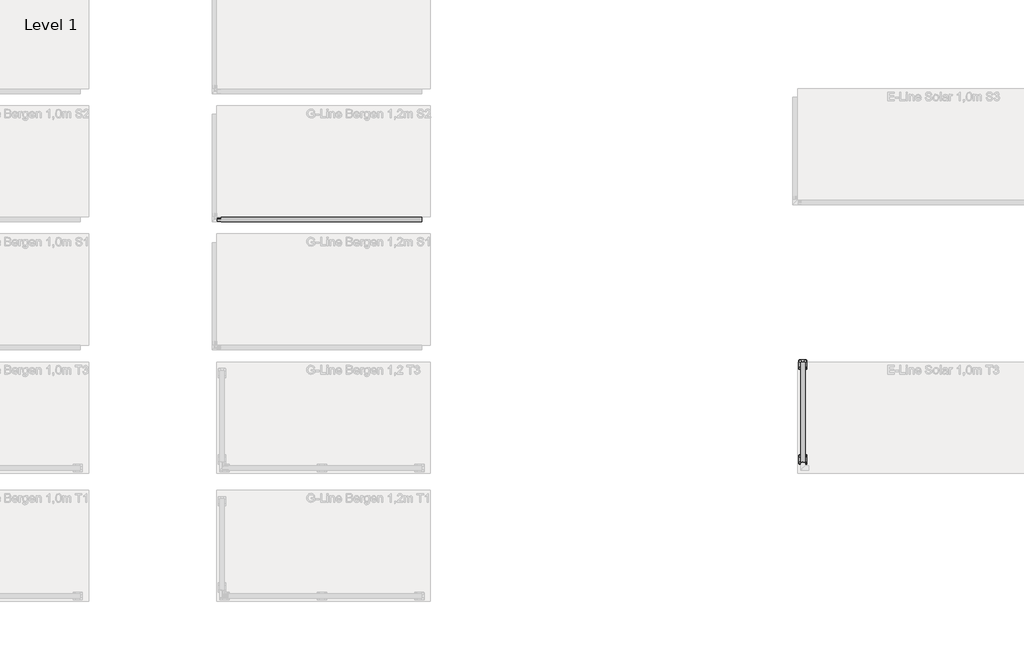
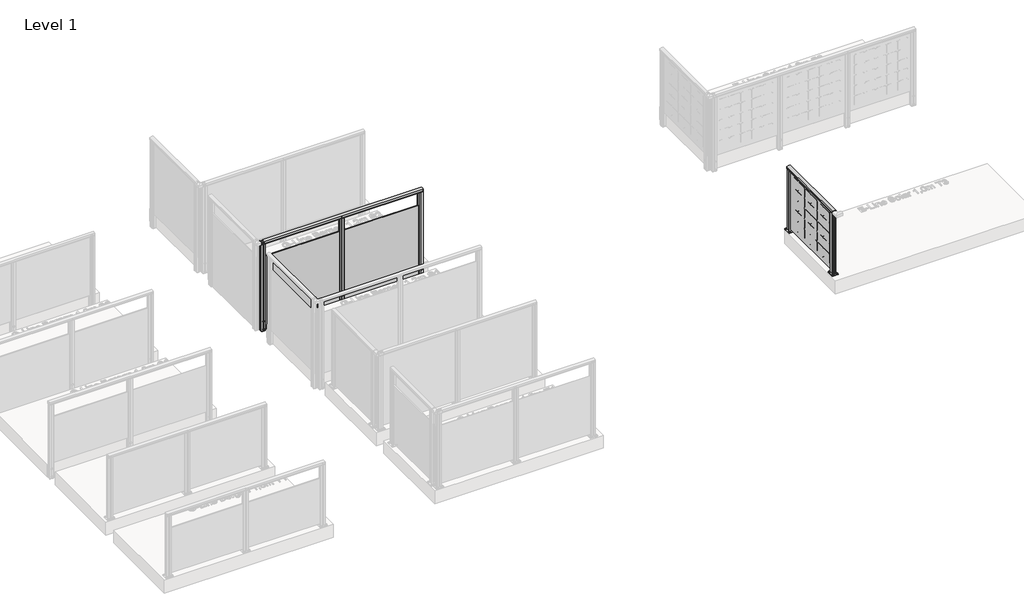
# One storey, part 22 of 66: 2 railings.
"""IFC4 building model written with IfcOpenShell, lengths in millimetres."""

from ifc_helpers import new_model, si_unit, point, frame, frame_2d, origin, origin_with_axes, place, context, project, spatial, polyline, circle_curve, trimmed, segment, composite_curve, outline, extrude, element, save

model = new_model("IFC4")

# Units and contexts
model_context = context("Model", 3, world=origin())
ifc_project = project(units=[si_unit("LENGTHUNIT", "METRE", prefix="MILLI")], contexts=[model_context])

# Site, building, storey
site = spatial("IfcSite", under=ifc_project)
building = spatial("IfcBuilding", under=site)
storey = spatial("IfcBuildingStorey", under=building, Name="Level 1", Elevation=0.0)

# Railings
placement = place(None, origin())
element("IfcRailing", 1, ObjectType="G-Line Bergen 1,2m S2", at=placement, inside=storey, context=model_context, shape_type="SweptSolid", body=[
    extrude(outline(composite_curve([segment(polyline([(13.4211819, 1194.1390059), (13.4211819, 1167.1990555), (12.8063989, 1166.5842725), (13.4211819, 1165.9694895), (13.4211819, 1157.2498847), (11.6613734, 1157.2498847), (11.6613734, 1180.4998829), (-35.3336728, 1180.4998829), (-35.3336728, 1157.2498847), (-37.1386257, 1157.2498847), (-37.1386257, 1165.8194895), (-36.5165446, 1166.4415706), (-37.0984763, 1167.0235023), (-37.0984763, 1194.1342258)]), True, "CONTINUOUS"), segment(trimmed(circle_curve(frame_2d((-11.8337784, 1142.6785502)), 57.3235687), [point((-37.0984763, 1194.1342258))], [point((13.4211819, 1194.1390059))], False, "CARTESIAN"), True, "CONTINUOUS")], self_intersect=False)), frame((8501.5263105, 0.0, 0.0), z_axis=(1.0, 0.0, 0.0), x_axis=(0.0, 1.0, 0.0)), (0.0, 0.0, 1.0), 2395.0),
    extrude(outline(polyline([(8501.5263105, -12.0140192), (8501.5263105, -10.1503363), (10896.5263105, -10.1503363), (10896.5263105, -12.0140192), (8501.5263105, -12.0140192)])), frame((0.0, 0.0, -200.0), z_axis=(0.0, 0.0, 1.0), x_axis=(1.0, 0.0, 0.0)), (0.0, 0.0, 1.0), 1.1703418),
    extrude(outline(polyline([(8501.5263105, -15.4984021), (8501.5263105, -6.7384021), (10896.5263105, -6.7384021), (10896.5263105, -15.4984021), (8501.5263105, -15.4984021)])), frame((0.0, 0.0, -200.0), z_axis=(0.0, 0.0, 1.0), x_axis=(1.0, 0.0, 0.0)), (0.0, 0.0, 1.0), 1150.0),
    extrude(outline(polyline([(9729.0247174, -6.7725401), (9711.5247176, -6.7699629), (9711.5234275, -15.5299628), (9729.0234273, -15.53254), (9729.0207684, -33.5873474), (9699.9037815, -33.5830594), (9699.025618, -32.7046373), (9697.9877501, -33.6229696), (9669.0207632, -33.6187037), (9669.023428, -15.5237039), (9686.5234278, -15.5262811), (9686.5247179, -6.7662812), (9669.0247181, -6.763704), (9669.0273844, 11.3412471), (9698.0438599, 11.3369739), (9699.0319584, 10.3485843), (9700.0604026, 11.3767256), (9729.0273896, 11.3724597), (9729.0247174, -6.7725401)]), holes=[polyline([(9690.2270955, -31.6244177), (9707.8210573, -31.6244177), (9707.8210573, 9.3781738), (9690.2270955, 9.3781738), (9690.2270955, -31.6244177)]), polyline([(9671.0270957, -4.7665316), (9688.2250124, -4.7665316), (9688.2250124, 9.3810013), (9671.0270957, 9.3810013), (9671.0270957, -4.7665316)]), polyline([(9671.0231335, -31.6244177), (9688.2210571, -31.6244177), (9688.2210571, -17.5239984), (9671.0231335, -17.5239984), (9671.0231335, -31.6244177)]), polyline([(9709.8270953, -4.7722456), (9727.025012, -4.7722456), (9727.025012, 9.3752873), (9709.8270953, 9.3752873), (9709.8270953, -4.7722456)]), polyline([(9709.823133, -31.6772453), (9727.0210497, -31.6772453), (9727.0210497, -17.5297124), (9709.823133, -17.5297124), (9709.823133, -31.6772453)])]), frame((0.0, 0.0, -200.0), z_axis=(0.0, 0.0, 1.0), x_axis=(1.0, 0.0, 0.0)), (0.0, 0.0, 1.0), 1381.0),
    extrude(outline(polyline([(9729.0247174, -6.7725401), (9711.5247176, -6.7699629), (9711.5234275, -15.5299628), (9729.0234273, -15.53254), (9729.0207684, -33.5873474), (9699.9037815, -33.5830594), (9699.025618, -32.7046373), (9697.9877501, -33.6229696), (9669.0207632, -33.6187037), (9669.023428, -15.5237039), (9686.5234278, -15.5262811), (9686.5247179, -6.7662812), (9669.0247181, -6.763704), (9669.0273844, 11.3412471), (9698.0438599, 11.3369739), (9699.0319584, 10.3485843), (9700.0604026, 11.3767256), (9729.0273896, 11.3724597), (9729.0247174, -6.7725401)])), frame((0.0, 0.0, -202.0233958), z_axis=(0.0, 0.0, 1.0), x_axis=(1.0, 0.0, 0.0)), (0.0, 0.0, 1.0), 2.0),
    extrude(outline(composite_curve([segment(trimmed(circle_curve(frame_2d((0.0, 12.0000001)), 12.0), [point((0.0, 24.0))], [point((0.0, 0.0))], False, "CARTESIAN"), True, "CONTINUOUS"), segment(trimmed(circle_curve(frame_2d((0.0, 12.0000001)), 12.0), [point((0.0, 0.0))], [point((0.0, 24.0))], False, "CARTESIAN"), True, "CONTINUOUS")], self_intersect=False)), frame((9687.0160336, -36.6536146, -175.0), z_axis=(0.00040291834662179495, 0.9999999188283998, 0.0), x_axis=(0.0, 0.0, 1.0)), (0.0, 0.0, 1.0), 3.0757477),
    extrude(outline(composite_curve([segment(trimmed(circle_curve(frame_2d((0.0, 12.0000001)), 12.0), [point((0.0, 24.0))], [point((0.0, 0.0))], False, "CARTESIAN"), True, "CONTINUOUS"), segment(trimmed(circle_curve(frame_2d((0.0, 12.0000001)), 12.0), [point((0.0, 0.0))], [point((0.0, 24.0))], False, "CARTESIAN"), True, "CONTINUOUS")], self_intersect=False)), frame((9687.0160336, -36.6536146, -50.0), z_axis=(0.00040291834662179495, 0.9999999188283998, 0.0), x_axis=(0.0, 0.0, 1.0)), (0.0, 0.0, 1.0), 3.0757477),
    extrude(outline(polyline([(10896.5247174, -6.7725401), (10879.0247176, -6.7699629), (10879.0234275, -15.5299628), (10896.5234273, -15.53254), (10896.5207684, -33.5873474), (10867.4037815, -33.5830594), (10866.525618, -32.7046373), (10865.4877501, -33.6229696), (10836.5207632, -33.6187037), (10836.523428, -15.5237039), (10854.0234278, -15.5262811), (10854.0247179, -6.7662812), (10836.5247181, -6.763704), (10836.5273844, 11.3412471), (10865.5438599, 11.3369739), (10866.5319584, 10.3485843), (10867.5604026, 11.3767256), (10896.5273896, 11.3724597), (10896.5247174, -6.7725401)]), holes=[polyline([(10857.7270955, -31.6244177), (10875.3210573, -31.6244177), (10875.3210573, 9.3781737), (10857.7270955, 9.3781737), (10857.7270955, -31.6244177)]), polyline([(10838.5270957, -4.7665316), (10855.7250124, -4.7665316), (10855.7250124, 9.3810013), (10838.5270957, 9.3810013), (10838.5270957, -4.7665316)]), polyline([(10838.5231335, -31.6244177), (10855.7210571, -31.6244177), (10855.7210571, -17.5239984), (10838.5231335, -17.5239984), (10838.5231335, -31.6244177)]), polyline([(10877.3270953, -4.7722456), (10894.525012, -4.7722456), (10894.525012, 9.3752873), (10877.3270953, 9.3752873), (10877.3270953, -4.7722456)]), polyline([(10877.323133, -31.6772453), (10894.5210497, -31.6772453), (10894.5210497, -17.5297124), (10877.323133, -17.5297124), (10877.323133, -31.6772453)])]), frame((0.0, 0.0, -200.0), z_axis=(0.0, 0.0, 1.0), x_axis=(1.0, 0.0, 0.0)), (0.0, 0.0, 1.0), 1381.0),
    extrude(outline(polyline([(10896.5247174, -6.7725401), (10879.0247176, -6.7699629), (10879.0234275, -15.5299628), (10896.5234273, -15.53254), (10896.5207684, -33.5873474), (10867.4037815, -33.5830594), (10866.525618, -32.7046373), (10865.4877501, -33.6229696), (10836.5207632, -33.6187037), (10836.523428, -15.5237039), (10854.0234278, -15.5262811), (10854.0247179, -6.7662812), (10836.5247181, -6.763704), (10836.5273844, 11.3412471), (10865.5438599, 11.3369739), (10866.5319584, 10.3485843), (10867.5604026, 11.3767256), (10896.5273896, 11.3724597), (10896.5247174, -6.7725401)])), frame((0.0, 0.0, -202.0233958), z_axis=(0.0, 0.0, 1.0), x_axis=(1.0, 0.0, 0.0)), (0.0, 0.0, 1.0), 2.0),
    extrude(outline(composite_curve([segment(trimmed(circle_curve(frame_2d((0.0, 12.0000001)), 12.0), [point((0.0, 24.0))], [point((0.0, 0.0))], False, "CARTESIAN"), True, "CONTINUOUS"), segment(trimmed(circle_curve(frame_2d((0.0, 12.0000001)), 12.0), [point((0.0, 0.0))], [point((0.0, 24.0))], False, "CARTESIAN"), True, "CONTINUOUS")], self_intersect=False)), frame((10854.5160336, -36.6536146, -175.0), z_axis=(0.00040291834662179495, 0.9999999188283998, 0.0), x_axis=(0.0, 0.0, 1.0)), (0.0, 0.0, 1.0), 3.0757477),
    extrude(outline(composite_curve([segment(trimmed(circle_curve(frame_2d((0.0, 12.0000001)), 12.0), [point((0.0, 24.0))], [point((0.0, 0.0))], False, "CARTESIAN"), True, "CONTINUOUS"), segment(trimmed(circle_curve(frame_2d((0.0, 12.0000001)), 12.0), [point((0.0, 0.0))], [point((0.0, 24.0))], False, "CARTESIAN"), True, "CONTINUOUS")], self_intersect=False)), frame((10854.5160336, -36.6536146, -50.0), z_axis=(0.00040291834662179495, 0.9999999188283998, 0.0), x_axis=(0.0, 0.0, 1.0)), (0.0, 0.0, 1.0), 3.0757477),
    extrude(outline(polyline([(8561.5247174, -6.7725401), (8544.0247176, -6.7699629), (8544.0234275, -15.5299628), (8561.5234273, -15.53254), (8561.5207684, -33.5873474), (8532.4037815, -33.5830594), (8531.525618, -32.7046373), (8530.4877501, -33.6229696), (8501.5207632, -33.6187037), (8501.523428, -15.5237039), (8519.0234278, -15.5262811), (8519.0247179, -6.7662812), (8501.5247181, -6.763704), (8501.5273844, 11.3412471), (8530.5438599, 11.3369739), (8531.5319584, 10.3485843), (8532.5604026, 11.3767256), (8561.5273896, 11.3724597), (8561.5247174, -6.7725401)]), holes=[polyline([(8522.7270955, -31.6244177), (8540.3210573, -31.6244177), (8540.3210573, 9.3781738), (8522.7270955, 9.3781738), (8522.7270955, -31.6244177)]), polyline([(8503.5270957, -4.7665316), (8520.7250124, -4.7665316), (8520.7250124, 9.3810013), (8503.5270957, 9.3810013), (8503.5270957, -4.7665316)]), polyline([(8503.5231335, -31.6244177), (8520.7210571, -31.6244177), (8520.7210571, -17.5239984), (8503.5231335, -17.5239984), (8503.5231335, -31.6244177)]), polyline([(8542.3270953, -4.7722456), (8559.525012, -4.7722456), (8559.525012, 9.3752873), (8542.3270953, 9.3752873), (8542.3270953, -4.7722456)]), polyline([(8542.323133, -31.6772453), (8559.5210497, -31.6772453), (8559.5210497, -17.5297124), (8542.323133, -17.5297124), (8542.323133, -31.6772453)])]), frame((0.0, 0.0, -200.0), z_axis=(0.0, 0.0, 1.0), x_axis=(1.0, 0.0, 0.0)), (0.0, 0.0, 1.0), 1381.0),
    extrude(outline(polyline([(8561.5247174, -6.7725401), (8544.0247176, -6.7699629), (8544.0234275, -15.5299628), (8561.5234273, -15.53254), (8561.5207684, -33.5873474), (8532.4037815, -33.5830594), (8531.525618, -32.7046373), (8530.4877501, -33.6229696), (8501.5207632, -33.6187037), (8501.523428, -15.5237039), (8519.0234278, -15.5262811), (8519.0247179, -6.7662812), (8501.5247181, -6.763704), (8501.5273844, 11.3412471), (8530.5438599, 11.3369739), (8531.5319584, 10.3485843), (8532.5604026, 11.3767256), (8561.5273896, 11.3724597), (8561.5247174, -6.7725401)])), frame((0.0, 0.0, -202.0233958), z_axis=(0.0, 0.0, 1.0), x_axis=(1.0, 0.0, 0.0)), (0.0, 0.0, 1.0), 2.0),
    extrude(outline(composite_curve([segment(trimmed(circle_curve(frame_2d((0.0, 12.0000001)), 12.0), [point((0.0, 24.0))], [point((0.0, 0.0))], False, "CARTESIAN"), True, "CONTINUOUS"), segment(trimmed(circle_curve(frame_2d((0.0, 12.0000001)), 12.0), [point((0.0, 0.0))], [point((0.0, 24.0))], False, "CARTESIAN"), True, "CONTINUOUS")], self_intersect=False)), frame((8519.5160336, -36.6536146, -175.0), z_axis=(0.00040291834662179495, 0.9999999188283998, 0.0), x_axis=(0.0, 0.0, 1.0)), (0.0, 0.0, 1.0), 3.0757477),
    extrude(outline(composite_curve([segment(trimmed(circle_curve(frame_2d((0.0, 12.0000001)), 12.0), [point((0.0, 24.0))], [point((0.0, 0.0))], False, "CARTESIAN"), True, "CONTINUOUS"), segment(trimmed(circle_curve(frame_2d((0.0, 12.0000001)), 12.0), [point((0.0, 0.0))], [point((0.0, 24.0))], False, "CARTESIAN"), True, "CONTINUOUS")], self_intersect=False)), frame((8519.5160336, -36.6536146, -50.0), z_axis=(0.00040291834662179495, 0.9999999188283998, 0.0), x_axis=(0.0, 0.0, 1.0)), (0.0, 0.0, 1.0), 3.0757477),
])
element("IfcRailing", 2, ObjectType="E-Line Solar 1,0m T3 6 columns of solar elements", at=placement, inside=storey, context=model_context, shape_type="SweptSolid", body=[
    extrude(outline(composite_curve([segment(trimmed(circle_curve(frame_2d((942.6785502, 15357.2511266)), 57.3235687), [point((994.1390059, 15382.5060869))], [point((994.1342258, 15331.9864286))], False, "CARTESIAN"), True, "CONTINUOUS"), segment(polyline([(994.1342258, 15331.9864286), (967.0235023, 15331.9864286), (966.4415706, 15332.5683604), (965.8194895, 15331.9462793), (957.2498847, 15331.9462793), (957.2498847, 15333.7512322), (980.4998829, 15333.7512322), (980.4998829, 15380.7462783), (957.2498847, 15380.7462783), (957.2498847, 15382.5060869), (965.9694895, 15382.5060869), (966.5842725, 15381.8913039), (967.1990555, 15382.5060869), (994.1390059, 15382.5060869)]), True, "CONTINUOUS")], self_intersect=False)), frame((0.0, -2851.1184021, 0.0), z_axis=(0.0, 1.0, 0.0), x_axis=(0.0, 0.0, 1.0)), (0.0, 0.0, 1.0), 1170.0),
    extrude(outline(polyline([(15352.1463105, -1681.1184021), (15360.9063105, -1681.1184021), (15360.9063105, -2851.1184021), (15352.1463105, -2851.1184021), (15352.1463105, -1681.1184021)])), frame((0.0, 0.0, 40.0), z_axis=(0.0, 0.0, 1.0), x_axis=(1.0, 0.0, 0.0)), (0.0, 0.0, 1.0), 940.0),
    extrude(outline(polyline([(0.0, 0.0), (16.036927, -16.036927), (16.036927, -139.963073), (0.0, -156.0), (-123.9261459, -156.0), (-139.963073, -139.963073), (-139.963073, -16.036927), (-123.9261459, 0.0), (0.0, 0.0)])), frame((15352.0263105, -1941.6184021, 888.4156895), z_axis=(1.0, 5.7872079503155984e-12, 0.0), x_axis=(0.0, 0.0, 1.0)), (0.0, 0.0, 1.0), 1.0),
    extrude(outline(polyline([(0.0, 0.0), (16.036927, -16.036927), (16.036927, -139.963073), (0.0, -156.0), (-123.9261459, -156.0), (-139.963073, -139.963073), (-139.963073, -16.036927), (-123.9261459, 0.0), (0.0, 0.0)])), frame((15352.0263105, -1941.6184021, 727.4156895), z_axis=(1.0, 5.7872079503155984e-12, 0.0), x_axis=(0.0, 0.0, 1.0)), (0.0, 0.0, 1.0), 1.0),
    extrude(outline(polyline([(0.0, 0.0), (16.036927, -16.036927), (16.036927, -139.963073), (0.0, -156.0), (-123.9261459, -156.0), (-139.963073, -139.963073), (-139.963073, -16.036927), (-123.9261459, 0.0), (0.0, 0.0)])), frame((15352.0263105, -1941.6184021, 566.4156895), z_axis=(1.0, 5.7872079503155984e-12, 0.0), x_axis=(0.0, 0.0, 1.0)), (0.0, 0.0, 1.0), 1.0),
    extrude(outline(polyline([(0.0, 0.0), (16.036927, -16.036927), (16.036927, -139.963073), (0.0, -156.0), (-123.9261459, -156.0), (-139.963073, -139.963073), (-139.963073, -16.036927), (-123.9261459, 0.0), (0.0, 0.0)])), frame((15352.0263105, -1941.6184021, 405.4156895), z_axis=(1.0, 5.7872079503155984e-12, 0.0), x_axis=(0.0, 0.0, 1.0)), (0.0, 0.0, 1.0), 1.0),
    extrude(outline(polyline([(0.0, 0.0), (16.036927, -16.036927), (16.036927, -139.963073), (0.0, -156.0), (-123.9261459, -156.0), (-139.963073, -139.963073), (-139.963073, -16.036927), (-123.9261459, 0.0), (0.0, 0.0)])), frame((15352.0263105, -1941.6184021, 244.4156895), z_axis=(1.0, 5.7872079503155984e-12, 0.0), x_axis=(0.0, 0.0, 1.0)), (0.0, 0.0, 1.0), 1.0),
    extrude(outline(polyline([(0.0, 0.0), (16.036927, -16.036927), (16.036927, -139.963073), (0.0, -156.0), (-123.9261459, -156.0), (-139.963073, -139.963073), (-139.963073, -16.036927), (-123.9261459, 0.0), (0.0, 0.0)])), frame((15352.0263105, -2102.6184021, 888.4156895), z_axis=(1.0, 5.7872079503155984e-12, 0.0), x_axis=(0.0, 0.0, 1.0)), (0.0, 0.0, 1.0), 1.0),
    extrude(outline(polyline([(0.0, 0.0), (16.036927, -16.036927), (16.036927, -139.963073), (0.0, -156.0), (-123.9261459, -156.0), (-139.963073, -139.963073), (-139.963073, -16.036927), (-123.9261459, 0.0), (0.0, 0.0)])), frame((15352.0263105, -2102.6184021, 727.4156895), z_axis=(1.0, 5.7872079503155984e-12, 0.0), x_axis=(0.0, 0.0, 1.0)), (0.0, 0.0, 1.0), 1.0),
    extrude(outline(polyline([(0.0, 0.0), (16.036927, -16.036927), (16.036927, -139.963073), (0.0, -156.0), (-123.9261459, -156.0), (-139.963073, -139.963073), (-139.963073, -16.036927), (-123.9261459, 0.0), (0.0, 0.0)])), frame((15352.0263105, -2102.6184021, 566.4156895), z_axis=(1.0, 5.7872079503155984e-12, 0.0), x_axis=(0.0, 0.0, 1.0)), (0.0, 0.0, 1.0), 1.0),
    extrude(outline(polyline([(0.0, 0.0), (16.036927, -16.036927), (16.036927, -139.963073), (0.0, -156.0), (-123.9261459, -156.0), (-139.963073, -139.963073), (-139.963073, -16.036927), (-123.9261459, 0.0), (0.0, 0.0)])), frame((15352.0263105, -2102.6184021, 405.4156895), z_axis=(1.0, 5.7872079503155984e-12, 0.0), x_axis=(0.0, 0.0, 1.0)), (0.0, 0.0, 1.0), 1.0),
    extrude(outline(polyline([(0.0, 0.0), (16.036927, -16.036927), (16.036927, -139.963073), (0.0, -156.0), (-123.9261459, -156.0), (-139.963073, -139.963073), (-139.963073, -16.036927), (-123.9261459, 0.0), (0.0, 0.0)])), frame((15352.0263105, -2102.6184021, 244.4156895), z_axis=(1.0, 5.7872079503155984e-12, 0.0), x_axis=(0.0, 0.0, 1.0)), (0.0, 0.0, 1.0), 1.0),
    extrude(outline(polyline([(0.0, 0.0), (16.036927, -16.036927), (16.036927, -139.963073), (0.0, -156.0), (-123.9261459, -156.0), (-139.963073, -139.963073), (-139.963073, -16.036927), (-123.9261459, 0.0), (0.0, 0.0)])), frame((15352.0263105, -2263.6184021, 888.4156895), z_axis=(1.0, 5.7872079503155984e-12, 0.0), x_axis=(0.0, 0.0, 1.0)), (0.0, 0.0, 1.0), 1.0),
    extrude(outline(polyline([(0.0, 0.0), (16.036927, -16.036927), (16.036927, -139.963073), (0.0, -156.0), (-123.9261459, -156.0), (-139.963073, -139.963073), (-139.963073, -16.036927), (-123.9261459, 0.0), (0.0, 0.0)])), frame((15352.0263105, -2263.6184021, 727.4156895), z_axis=(1.0, 5.7872079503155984e-12, 0.0), x_axis=(0.0, 0.0, 1.0)), (0.0, 0.0, 1.0), 1.0),
    extrude(outline(polyline([(0.0, 0.0), (16.036927, -16.036927), (16.036927, -139.963073), (0.0, -156.0), (-123.9261459, -156.0), (-139.963073, -139.963073), (-139.963073, -16.036927), (-123.9261459, 0.0), (0.0, 0.0)])), frame((15352.0263105, -2263.6184021, 566.4156895), z_axis=(1.0, 5.7872079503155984e-12, 0.0), x_axis=(0.0, 0.0, 1.0)), (0.0, 0.0, 1.0), 1.0),
    extrude(outline(polyline([(0.0, 0.0), (16.036927, -16.036927), (16.036927, -139.963073), (0.0, -156.0), (-123.9261459, -156.0), (-139.963073, -139.963073), (-139.963073, -16.036927), (-123.9261459, 0.0), (0.0, 0.0)])), frame((15352.0263105, -2263.6184021, 405.4156895), z_axis=(1.0, 5.7872079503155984e-12, 0.0), x_axis=(0.0, 0.0, 1.0)), (0.0, 0.0, 1.0), 1.0),
    extrude(outline(polyline([(0.0, 0.0), (16.036927, -16.036927), (16.036927, -139.963073), (0.0, -156.0), (-123.9261459, -156.0), (-139.963073, -139.963073), (-139.963073, -16.036927), (-123.9261459, 0.0), (0.0, 0.0)])), frame((15352.0263105, -2263.6184021, 244.4156895), z_axis=(1.0, 5.7872079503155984e-12, 0.0), x_axis=(0.0, 0.0, 1.0)), (0.0, 0.0, 1.0), 1.0),
    extrude(outline(polyline([(0.0, 0.0), (16.036927, -16.036927), (16.036927, -139.963073), (0.0, -156.0), (-123.9261459, -156.0), (-139.963073, -139.963073), (-139.963073, -16.036927), (-123.9261459, 0.0), (0.0, 0.0)])), frame((15352.0263105, -2746.6184021, 888.4156895), z_axis=(1.0, 5.7872079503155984e-12, 0.0), x_axis=(0.0, 0.0, 1.0)), (0.0, 0.0, 1.0), 1.0),
    extrude(outline(polyline([(0.0, 0.0), (16.036927, -16.036927), (16.036927, -139.963073), (0.0, -156.0), (-123.9261459, -156.0), (-139.963073, -139.963073), (-139.963073, -16.036927), (-123.9261459, 0.0), (0.0, 0.0)])), frame((15352.0263105, -2746.6184021, 727.4156895), z_axis=(1.0, 5.7872079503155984e-12, 0.0), x_axis=(0.0, 0.0, 1.0)), (0.0, 0.0, 1.0), 1.0),
    extrude(outline(polyline([(0.0, 0.0), (16.036927, -16.036927), (16.036927, -139.963073), (0.0, -156.0), (-123.9261459, -156.0), (-139.963073, -139.963073), (-139.963073, -16.036927), (-123.9261459, 0.0), (0.0, 0.0)])), frame((15352.0263105, -2746.6184021, 566.4156895), z_axis=(1.0, 5.7872079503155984e-12, 0.0), x_axis=(0.0, 0.0, 1.0)), (0.0, 0.0, 1.0), 1.0),
    extrude(outline(polyline([(0.0, 0.0), (16.036927, -16.036927), (16.036927, -139.963073), (0.0, -156.0), (-123.9261459, -156.0), (-139.963073, -139.963073), (-139.963073, -16.036927), (-123.9261459, 0.0), (0.0, 0.0)])), frame((15352.0263105, -2746.6184021, 405.4156895), z_axis=(1.0, 5.7872079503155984e-12, 0.0), x_axis=(0.0, 0.0, 1.0)), (0.0, 0.0, 1.0), 1.0),
    extrude(outline(polyline([(0.0, 0.0), (16.036927, -16.036927), (16.036927, -139.963073), (0.0, -156.0), (-123.9261459, -156.0), (-139.963073, -139.963073), (-139.963073, -16.036927), (-123.9261459, 0.0), (0.0, 0.0)])), frame((15352.0263105, -2746.6184021, 244.4156895), z_axis=(1.0, 5.7872079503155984e-12, 0.0), x_axis=(0.0, 0.0, 1.0)), (0.0, 0.0, 1.0), 1.0),
    extrude(outline(polyline([(0.0, 0.0), (16.036927, -16.036927), (16.036927, -139.963073), (0.0, -156.0), (-123.9261459, -156.0), (-139.963073, -139.963073), (-139.963073, -16.036927), (-123.9261459, 0.0), (0.0, 0.0)])), frame((15352.0263105, -2585.6184021, 888.4156895), z_axis=(1.0, 5.7872079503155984e-12, 0.0), x_axis=(0.0, 0.0, 1.0)), (0.0, 0.0, 1.0), 1.0),
    extrude(outline(polyline([(0.0, 0.0), (16.036927, -16.036927), (16.036927, -139.963073), (0.0, -156.0), (-123.9261459, -156.0), (-139.963073, -139.963073), (-139.963073, -16.036927), (-123.9261459, 0.0), (0.0, 0.0)])), frame((15352.0263105, -2585.6184021, 727.4156895), z_axis=(1.0, 5.7872079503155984e-12, 0.0), x_axis=(0.0, 0.0, 1.0)), (0.0, 0.0, 1.0), 1.0),
    extrude(outline(polyline([(0.0, 0.0), (16.036927, -16.036927), (16.036927, -139.963073), (0.0, -156.0), (-123.9261459, -156.0), (-139.963073, -139.963073), (-139.963073, -16.036927), (-123.9261459, 0.0), (0.0, 0.0)])), frame((15352.0263105, -2585.6184021, 566.4156895), z_axis=(1.0, 5.7872079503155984e-12, 0.0), x_axis=(0.0, 0.0, 1.0)), (0.0, 0.0, 1.0), 1.0),
    extrude(outline(polyline([(0.0, 0.0), (16.036927, -16.036927), (16.036927, -139.963073), (0.0, -156.0), (-123.9261459, -156.0), (-139.963073, -139.963073), (-139.963073, -16.036927), (-123.9261459, 0.0), (0.0, 0.0)])), frame((15352.0263105, -2585.6184021, 405.4156895), z_axis=(1.0, 5.7872079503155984e-12, 0.0), x_axis=(0.0, 0.0, 1.0)), (0.0, 0.0, 1.0), 1.0),
    extrude(outline(polyline([(0.0, 0.0), (16.036927, -16.036927), (16.036927, -139.963073), (0.0, -156.0), (-123.9261459, -156.0), (-139.963073, -139.963073), (-139.963073, -16.036927), (-123.9261459, 0.0), (0.0, 0.0)])), frame((15352.0263105, -2585.6184021, 244.4156895), z_axis=(1.0, 5.7872079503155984e-12, 0.0), x_axis=(0.0, 0.0, 1.0)), (0.0, 0.0, 1.0), 1.0),
    extrude(outline(polyline([(0.0, 0.0), (16.036927, -16.036927), (16.036927, -139.963073), (0.0, -156.0), (-123.9261459, -156.0), (-139.963073, -139.963073), (-139.963073, -16.036927), (-123.9261459, 0.0), (0.0, 0.0)])), frame((15352.0263105, -2424.6184021, 888.4156895), z_axis=(1.0, 5.7872079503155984e-12, 0.0), x_axis=(0.0, 0.0, 1.0)), (0.0, 0.0, 1.0), 1.0),
    extrude(outline(polyline([(0.0, 0.0), (16.036927, -16.036927), (16.036927, -139.963073), (0.0, -156.0), (-123.9261459, -156.0), (-139.963073, -139.963073), (-139.963073, -16.036927), (-123.9261459, 0.0), (0.0, 0.0)])), frame((15352.0263105, -2424.6184021, 727.4156895), z_axis=(1.0, 5.7872079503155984e-12, 0.0), x_axis=(0.0, 0.0, 1.0)), (0.0, 0.0, 1.0), 1.0),
    extrude(outline(polyline([(0.0, 0.0), (16.036927, -16.036927), (16.036927, -139.963073), (0.0, -156.0), (-123.9261459, -156.0), (-139.963073, -139.963073), (-139.963073, -16.036927), (-123.9261459, 0.0), (0.0, 0.0)])), frame((15352.0263105, -2424.6184021, 566.4156895), z_axis=(1.0, 5.7872079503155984e-12, 0.0), x_axis=(0.0, 0.0, 1.0)), (0.0, 0.0, 1.0), 1.0),
    extrude(outline(polyline([(0.0, 0.0), (16.036927, -16.036927), (16.036927, -139.963073), (0.0, -156.0), (-123.9261459, -156.0), (-139.963073, -139.963073), (-139.963073, -16.036927), (-123.9261459, 0.0), (0.0, 0.0)])), frame((15352.0263105, -2424.6184021, 405.4156895), z_axis=(1.0, 5.7872079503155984e-12, 0.0), x_axis=(0.0, 0.0, 1.0)), (0.0, 0.0, 1.0), 1.0),
    extrude(outline(polyline([(0.0, 0.0), (16.036927, -16.036927), (16.036927, -139.963073), (0.0, -156.0), (-123.9261459, -156.0), (-139.963073, -139.963073), (-139.963073, -16.036927), (-123.9261459, 0.0), (0.0, 0.0)])), frame((15352.0263105, -2424.6184021, 244.4156895), z_axis=(1.0, 5.7872079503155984e-12, 0.0), x_axis=(0.0, 0.0, 1.0)), (0.0, 0.0, 1.0), 1.0),
    extrude(outline(composite_curve([segment(trimmed(circle_curve(frame_2d((15326.5263105, -2781.1184021)), 11.9621755), [point((15314.564135, -2781.1184021))], [point((15338.488486, -2781.1184021))], False, "CARTESIAN"), True, "CONTINUOUS"), segment(trimmed(circle_curve(frame_2d((15326.5263105, -2781.1184021)), 11.9621755), [point((15338.488486, -2781.1184021))], [point((15314.564135, -2781.1184021))], False, "CARTESIAN"), True, "CONTINUOUS")], self_intersect=False)), frame((0.0, 0.0, 10.0), z_axis=(0.0, 0.0, 1.0), x_axis=(1.0, 0.0, 0.0)), (0.0, 0.0, 1.0), 5.0),
    extrude(outline(composite_curve([segment(trimmed(circle_curve(frame_2d((15386.5263105, -2781.1184021)), 11.9621755), [point((15374.564135, -2781.1184021))], [point((15398.488486, -2781.1184021))], False, "CARTESIAN"), True, "CONTINUOUS"), segment(trimmed(circle_curve(frame_2d((15386.5263105, -2781.1184021)), 11.9621755), [point((15398.488486, -2781.1184021))], [point((15374.564135, -2781.1184021))], False, "CARTESIAN"), True, "CONTINUOUS")], self_intersect=False)), frame((0.0, 0.0, 10.0), z_axis=(0.0, 0.0, 1.0), x_axis=(1.0, 0.0, 0.0)), (0.0, 0.0, 1.0), 5.0),
    extrude(outline(composite_curve([segment(trimmed(circle_curve(frame_2d((15326.5263105, -2861.1184021)), 11.9621755), [point((15314.564135, -2861.1184021))], [point((15338.488486, -2861.1184021))], False, "CARTESIAN"), True, "CONTINUOUS"), segment(trimmed(circle_curve(frame_2d((15326.5263105, -2861.1184021)), 11.9621755), [point((15338.488486, -2861.1184021))], [point((15314.564135, -2861.1184021))], False, "CARTESIAN"), True, "CONTINUOUS")], self_intersect=False)), frame((0.0, 0.0, 10.0), z_axis=(0.0, 0.0, 1.0), x_axis=(1.0, 0.0, 0.0)), (0.0, 0.0, 1.0), 5.0),
    extrude(outline(composite_curve([segment(trimmed(circle_curve(frame_2d((15386.5263105, -2861.1184021)), 11.9621755), [point((15374.564135, -2861.1184021))], [point((15398.488486, -2861.1184021))], False, "CARTESIAN"), True, "CONTINUOUS"), segment(trimmed(circle_curve(frame_2d((15386.5263105, -2861.1184021)), 11.9621755), [point((15398.488486, -2861.1184021))], [point((15374.564135, -2861.1184021))], False, "CARTESIAN"), True, "CONTINUOUS")], self_intersect=False)), frame((0.0, 0.0, 10.0), z_axis=(0.0, 0.0, 1.0), x_axis=(1.0, 0.0, 0.0)), (0.0, 0.0, 1.0), 5.0),
    extrude(outline(composite_curve([segment(trimmed(circle_curve(frame_2d((15396.5263105, -2771.1184021)), 5.0), [point((15396.5263105, -2766.1184021))], [point((15401.5263105, -2771.1184021))], False, "CARTESIAN"), True, "CONTINUOUS"), segment(polyline([(15401.5263105, -2771.1184021), (15401.5263105, -2871.1184021)]), True, "CONTINUOUS"), segment(trimmed(circle_curve(frame_2d((15396.5263105, -2871.1184021)), 5.0), [point((15401.5263105, -2871.1184021))], [point((15396.5263105, -2876.1184021))], False, "CARTESIAN"), True, "CONTINUOUS"), segment(polyline([(15396.5263105, -2876.1184021), (15316.5263105, -2876.1184021)]), True, "CONTINUOUS"), segment(trimmed(circle_curve(frame_2d((15316.5263105, -2871.1184021)), 5.0), [point((15316.5263105, -2876.1184021))], [point((15311.5263105, -2871.1184021))], False, "CARTESIAN"), True, "CONTINUOUS"), segment(polyline([(15311.5263105, -2871.1184021), (15311.5263105, -2771.1184021)]), True, "CONTINUOUS"), segment(trimmed(circle_curve(frame_2d((15316.5263105, -2771.1184021)), 5.0), [point((15311.5263105, -2771.1184021))], [point((15316.5263105, -2766.1184021))], False, "CARTESIAN"), True, "CONTINUOUS"), segment(polyline([(15316.5263105, -2766.1184021), (15396.5263105, -2766.1184021)]), True, "CONTINUOUS")], self_intersect=False), holes=[composite_curve([segment(trimmed(circle_curve(frame_2d((15386.5263105, -2781.1184021)), 6.25), [point((15380.2763105, -2781.1184021))], [point((15392.7763105, -2781.1184021))], True, "CARTESIAN"), True, "CONTINUOUS"), segment(trimmed(circle_curve(frame_2d((15386.5263105, -2781.1184021)), 6.25), [point((15392.7763105, -2781.1184021))], [point((15380.2763105, -2781.1184021))], True, "CARTESIAN"), True, "CONTINUOUS")], self_intersect=False), composite_curve([segment(trimmed(circle_curve(frame_2d((15326.5263105, -2781.1184021)), 6.25), [point((15320.2763105, -2781.1184021))], [point((15332.7763105, -2781.1184021))], True, "CARTESIAN"), True, "CONTINUOUS"), segment(trimmed(circle_curve(frame_2d((15326.5263105, -2781.1184021)), 6.25), [point((15332.7763105, -2781.1184021))], [point((15320.2763105, -2781.1184021))], True, "CARTESIAN"), True, "CONTINUOUS")], self_intersect=False), composite_curve([segment(trimmed(circle_curve(frame_2d((15326.5263105, -2861.1184021)), 6.25), [point((15320.2763105, -2861.1184021))], [point((15332.7763105, -2861.1184021))], True, "CARTESIAN"), True, "CONTINUOUS"), segment(trimmed(circle_curve(frame_2d((15326.5263105, -2861.1184021)), 6.25), [point((15332.7763105, -2861.1184021))], [point((15320.2763105, -2861.1184021))], True, "CARTESIAN"), True, "CONTINUOUS")], self_intersect=False), composite_curve([segment(trimmed(circle_curve(frame_2d((15386.5263105, -2861.1184021)), 6.25), [point((15380.2763105, -2861.1184021))], [point((15392.7763105, -2861.1184021))], True, "CARTESIAN"), True, "CONTINUOUS"), segment(trimmed(circle_curve(frame_2d((15386.5263105, -2861.1184021)), 6.25), [point((15392.7763105, -2861.1184021))], [point((15380.2763105, -2861.1184021))], True, "CARTESIAN"), True, "CONTINUOUS")], self_intersect=False)]), origin_with_axes(), (0.0, 0.0, 1.0), 10.0),
    extrude(outline(polyline([(15352.1804485, -2851.116809), (15334.0354487, -2851.1194812), (15334.0311828, -2822.1524942), (15335.0593241, -2821.12405), (15334.0709345, -2820.1359515), (15334.0666613, -2791.119476), (15352.1716124, -2791.1168097), (15352.1741896, -2808.6168095), (15360.9341895, -2808.6155194), (15360.9316123, -2791.1155196), (15379.0266121, -2791.1128548), (15379.030878, -2820.0798417), (15378.1125457, -2821.1177096), (15378.9909678, -2821.995873), (15378.9952559, -2851.11286), (15360.9404484, -2851.1155189), (15360.9378712, -2833.6155191), (15352.1778713, -2833.6168092), (15352.1804485, -2851.116809)]), holes=[polyline([(15377.0323262, -2812.3191871), (15336.0297347, -2812.3191871), (15336.0297347, -2829.9131488), (15377.0323262, -2829.9131488), (15377.0323262, -2812.3191871)]), polyline([(15350.17444, -2793.1191873), (15336.0269071, -2793.1191873), (15336.0269071, -2810.317104), (15350.17444, -2810.317104), (15350.17444, -2793.1191873)]), polyline([(15377.0323262, -2793.115225), (15362.9319068, -2793.115225), (15362.9319068, -2810.3131487), (15377.0323262, -2810.3131487), (15377.0323262, -2793.115225)]), polyline([(15350.180154, -2831.9191868), (15336.0326211, -2831.9191868), (15336.0326211, -2849.1171035), (15350.180154, -2849.1171035), (15350.180154, -2831.9191868)]), polyline([(15377.0851537, -2831.9152246), (15362.9376209, -2831.9152246), (15362.9376209, -2849.1131413), (15377.0851537, -2849.1131413), (15377.0851537, -2831.9152246)])]), frame((0.0, 0.0, 10.0), z_axis=(0.0, 0.0, 1.0), x_axis=(1.0, 0.0, 0.0)), (0.0, 0.0, 1.0), 971.0),
    extrude(outline(composite_curve([segment(trimmed(circle_curve(frame_2d((15326.5263105, -1671.1184021)), 11.9621755), [point((15314.564135, -1671.1184021))], [point((15338.488486, -1671.1184021))], False, "CARTESIAN"), True, "CONTINUOUS"), segment(trimmed(circle_curve(frame_2d((15326.5263105, -1671.1184021)), 11.9621755), [point((15338.488486, -1671.1184021))], [point((15314.564135, -1671.1184021))], False, "CARTESIAN"), True, "CONTINUOUS")], self_intersect=False)), frame((0.0, 0.0, 10.0), z_axis=(0.0, 0.0, 1.0), x_axis=(1.0, 0.0, 0.0)), (0.0, 0.0, 1.0), 5.0),
    extrude(outline(composite_curve([segment(trimmed(circle_curve(frame_2d((15386.5263105, -1671.1184021)), 11.9621755), [point((15374.564135, -1671.1184021))], [point((15398.488486, -1671.1184021))], False, "CARTESIAN"), True, "CONTINUOUS"), segment(trimmed(circle_curve(frame_2d((15386.5263105, -1671.1184021)), 11.9621755), [point((15398.488486, -1671.1184021))], [point((15374.564135, -1671.1184021))], False, "CARTESIAN"), True, "CONTINUOUS")], self_intersect=False)), frame((0.0, 0.0, 10.0), z_axis=(0.0, 0.0, 1.0), x_axis=(1.0, 0.0, 0.0)), (0.0, 0.0, 1.0), 5.0),
    extrude(outline(composite_curve([segment(trimmed(circle_curve(frame_2d((15326.5263105, -1751.1184021)), 11.9621755), [point((15314.564135, -1751.1184021))], [point((15338.488486, -1751.1184021))], False, "CARTESIAN"), True, "CONTINUOUS"), segment(trimmed(circle_curve(frame_2d((15326.5263105, -1751.1184021)), 11.9621755), [point((15338.488486, -1751.1184021))], [point((15314.564135, -1751.1184021))], False, "CARTESIAN"), True, "CONTINUOUS")], self_intersect=False)), frame((0.0, 0.0, 10.0), z_axis=(0.0, 0.0, 1.0), x_axis=(1.0, 0.0, 0.0)), (0.0, 0.0, 1.0), 5.0),
    extrude(outline(composite_curve([segment(trimmed(circle_curve(frame_2d((15386.5263105, -1751.1184021)), 11.9621755), [point((15374.564135, -1751.1184021))], [point((15398.488486, -1751.1184021))], False, "CARTESIAN"), True, "CONTINUOUS"), segment(trimmed(circle_curve(frame_2d((15386.5263105, -1751.1184021)), 11.9621755), [point((15398.488486, -1751.1184021))], [point((15374.564135, -1751.1184021))], False, "CARTESIAN"), True, "CONTINUOUS")], self_intersect=False)), frame((0.0, 0.0, 10.0), z_axis=(0.0, 0.0, 1.0), x_axis=(1.0, 0.0, 0.0)), (0.0, 0.0, 1.0), 5.0),
    extrude(outline(composite_curve([segment(trimmed(circle_curve(frame_2d((15396.5263105, -1661.1184021)), 5.0), [point((15396.5263105, -1656.1184021))], [point((15401.5263105, -1661.1184021))], False, "CARTESIAN"), True, "CONTINUOUS"), segment(polyline([(15401.5263105, -1661.1184021), (15401.5263105, -1761.1184021)]), True, "CONTINUOUS"), segment(trimmed(circle_curve(frame_2d((15396.5263105, -1761.1184021)), 5.0), [point((15401.5263105, -1761.1184021))], [point((15396.5263105, -1766.1184021))], False, "CARTESIAN"), True, "CONTINUOUS"), segment(polyline([(15396.5263105, -1766.1184021), (15316.5263105, -1766.1184021)]), True, "CONTINUOUS"), segment(trimmed(circle_curve(frame_2d((15316.5263105, -1761.1184021)), 5.0), [point((15316.5263105, -1766.1184021))], [point((15311.5263105, -1761.1184021))], False, "CARTESIAN"), True, "CONTINUOUS"), segment(polyline([(15311.5263105, -1761.1184021), (15311.5263105, -1661.1184021)]), True, "CONTINUOUS"), segment(trimmed(circle_curve(frame_2d((15316.5263105, -1661.1184021)), 5.0), [point((15311.5263105, -1661.1184021))], [point((15316.5263105, -1656.1184021))], False, "CARTESIAN"), True, "CONTINUOUS"), segment(polyline([(15316.5263105, -1656.1184021), (15396.5263105, -1656.1184021)]), True, "CONTINUOUS")], self_intersect=False), holes=[composite_curve([segment(trimmed(circle_curve(frame_2d((15386.5263105, -1671.1184021)), 6.25), [point((15380.2763105, -1671.1184021))], [point((15392.7763105, -1671.1184021))], True, "CARTESIAN"), True, "CONTINUOUS"), segment(trimmed(circle_curve(frame_2d((15386.5263105, -1671.1184021)), 6.25), [point((15392.7763105, -1671.1184021))], [point((15380.2763105, -1671.1184021))], True, "CARTESIAN"), True, "CONTINUOUS")], self_intersect=False), composite_curve([segment(trimmed(circle_curve(frame_2d((15326.5263105, -1671.1184021)), 6.25), [point((15320.2763105, -1671.1184021))], [point((15332.7763105, -1671.1184021))], True, "CARTESIAN"), True, "CONTINUOUS"), segment(trimmed(circle_curve(frame_2d((15326.5263105, -1671.1184021)), 6.25), [point((15332.7763105, -1671.1184021))], [point((15320.2763105, -1671.1184021))], True, "CARTESIAN"), True, "CONTINUOUS")], self_intersect=False), composite_curve([segment(trimmed(circle_curve(frame_2d((15326.5263105, -1751.1184021)), 6.25), [point((15320.2763105, -1751.1184021))], [point((15332.7763105, -1751.1184021))], True, "CARTESIAN"), True, "CONTINUOUS"), segment(trimmed(circle_curve(frame_2d((15326.5263105, -1751.1184021)), 6.25), [point((15332.7763105, -1751.1184021))], [point((15320.2763105, -1751.1184021))], True, "CARTESIAN"), True, "CONTINUOUS")], self_intersect=False), composite_curve([segment(trimmed(circle_curve(frame_2d((15386.5263105, -1751.1184021)), 6.25), [point((15380.2763105, -1751.1184021))], [point((15392.7763105, -1751.1184021))], True, "CARTESIAN"), True, "CONTINUOUS"), segment(trimmed(circle_curve(frame_2d((15386.5263105, -1751.1184021)), 6.25), [point((15392.7763105, -1751.1184021))], [point((15380.2763105, -1751.1184021))], True, "CARTESIAN"), True, "CONTINUOUS")], self_intersect=False)]), origin_with_axes(), (0.0, 0.0, 1.0), 10.0),
    extrude(outline(polyline([(15352.1804485, -1741.116809), (15334.0354487, -1741.1194812), (15334.0311828, -1712.1524942), (15335.0593241, -1711.12405), (15334.0709345, -1710.1359515), (15334.0666613, -1681.119476), (15352.1716124, -1681.1168097), (15352.1741896, -1698.6168095), (15360.9341895, -1698.6155194), (15360.9316123, -1681.1155196), (15379.0266121, -1681.1128548), (15379.030878, -1710.0798417), (15378.1125457, -1711.1177096), (15378.9909678, -1711.995873), (15378.9952559, -1741.11286), (15360.9404484, -1741.1155189), (15360.9378712, -1723.6155191), (15352.1778713, -1723.6168092), (15352.1804485, -1741.116809)]), holes=[polyline([(15377.0323262, -1702.3191871), (15336.0297347, -1702.3191871), (15336.0297347, -1719.9131488), (15377.0323262, -1719.9131488), (15377.0323262, -1702.3191871)]), polyline([(15350.17444, -1683.1191873), (15336.0269071, -1683.1191873), (15336.0269071, -1700.317104), (15350.17444, -1700.317104), (15350.17444, -1683.1191873)]), polyline([(15377.0323262, -1683.115225), (15362.9319068, -1683.115225), (15362.9319068, -1700.3131487), (15377.0323262, -1700.3131487), (15377.0323262, -1683.115225)]), polyline([(15350.180154, -1721.9191868), (15336.0326211, -1721.9191868), (15336.0326211, -1739.1171035), (15350.180154, -1739.1171035), (15350.180154, -1721.9191868)]), polyline([(15377.0851537, -1721.9152246), (15362.9376209, -1721.9152246), (15362.9376209, -1739.1131413), (15377.0851537, -1739.1131413), (15377.0851537, -1721.9152246)])]), frame((0.0, 0.0, 10.0), z_axis=(0.0, 0.0, 1.0), x_axis=(1.0, 0.0, 0.0)), (0.0, 0.0, 1.0), 971.0),
])

save(model, "model.ifc")
